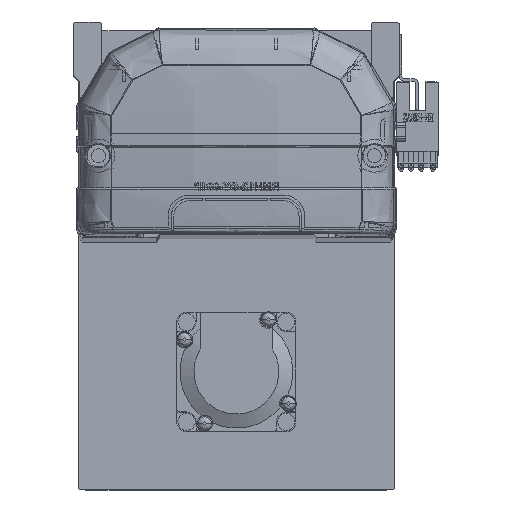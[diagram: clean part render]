
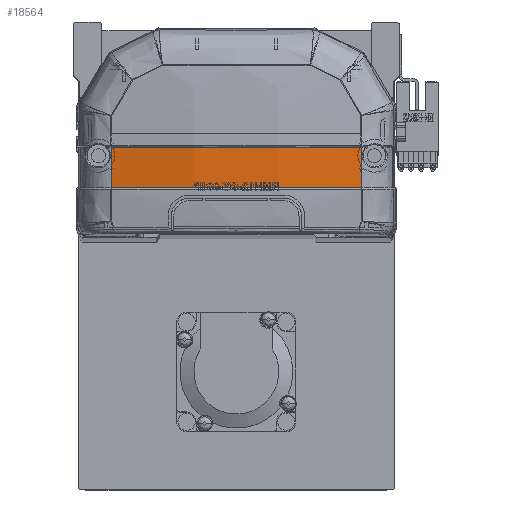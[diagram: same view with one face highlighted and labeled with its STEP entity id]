
A CAD part, top view. The second image highlights one B-rep face of the part: STEP entity #18564.
In plain terms, the highlighted free-form (B-spline) face has degree [3, 3] with [4, 4] control points.
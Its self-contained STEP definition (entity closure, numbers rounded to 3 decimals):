
#2565 = CARTESIAN_POINT ( 'NONE',  ( -13.384, 15.83, -8.724 ) ) ;
#3143 = CARTESIAN_POINT ( 'NONE',  ( 13.38, 15.83, -8.984 ) ) ;
#3167 = VERTEX_POINT ( 'NONE', #17870 ) ;
#3229 = EDGE_LOOP ( 'NONE', ( #35062, #28733, #48398, #22841 ) ) ;
#3944 = CARTESIAN_POINT ( 'NONE',  ( -40.461, 24.47, -6.231 ) ) ;
#5026 = CARTESIAN_POINT ( 'NONE',  ( 39.963, 28.706, -6.372 ) ) ;
#5845 = CARTESIAN_POINT ( 'NONE',  ( -13.373, 28.707, -9.468 ) ) ;
#6279 = B_SPLINE_CURVE_WITH_KNOTS ( 'NONE', 3,
 ( #10714, #55806, #38771, #56366 ),
 .UNSPECIFIED., .F., .F.,
 ( 4, 4 ),
 ( 0., 1. ),
 .UNSPECIFIED. ) ;
#7528 = CARTESIAN_POINT ( 'NONE',  ( 26.761, 15.83, -7.945 ) ) ;
#8904 = CARTESIAN_POINT ( 'NONE',  ( -13.598, 24.342, -10.47 ) ) ;
#9825 = CARTESIAN_POINT ( 'NONE',  ( 13.375, 28.707, -9.468 ) ) ;
#10714 = CARTESIAN_POINT ( 'NONE',  ( -39.963, 28.706, -6.372 ) ) ;
#12488 = CARTESIAN_POINT ( 'NONE',  ( 39.985, 15.83, -5.879 ) ) ;
#12703 = CARTESIAN_POINT ( 'NONE',  ( 40.461, 15.757, -5.8 ) ) ;
#13887 = CARTESIAN_POINT ( 'NONE',  ( -40.461, 28.832, -6.296 ) ) ;
#14612 = CARTESIAN_POINT ( 'NONE',  ( 26.749, 28.706, -8.432 ) ) ;
#15183 = EDGE_CURVE ( 'NONE', #26438, #3167, #6279, .T. ) ;
#15353 = VERTEX_POINT ( 'NONE', #5026 ) ;
#15959 = CARTESIAN_POINT ( 'NONE',  ( 39.973, 20.12, -6.142 ) ) ;
#16677 = CARTESIAN_POINT ( 'NONE',  ( -23.389, 15.83, -7.947 ) ) ;
#16857 = CARTESIAN_POINT ( 'NONE',  ( -39.985, 15.83, -5.879 ) ) ;
#17468 = CARTESIAN_POINT ( 'NONE',  ( 13.598, 19.918, -10.302 ) ) ;
#17870 = CARTESIAN_POINT ( 'NONE',  ( -39.985, 15.83, -5.879 ) ) ;
#18564 = ADVANCED_FACE ( 'NONE', ( #38279 ), #57569, .F. ) ;
#20272 = VERTEX_POINT ( 'NONE', #23246 ) ;
#22024 = CARTESIAN_POINT ( 'NONE',  ( -13.598, 28.769, -10.535 ) ) ;
#22249 = B_SPLINE_CURVE_WITH_KNOTS ( 'NONE', 3,
 ( #24633, #15959, #42848, #38473 ),
 .UNSPECIFIED., .F., .F.,
 ( 4, 4 ),
 ( 0., 1. ),
 .UNSPECIFIED. ) ;
#22412 = CARTESIAN_POINT ( 'NONE',  ( 40.461, 20.111, -6.066 ) ) ;
#22841 = ORIENTED_EDGE ( 'NONE', *, *, #49561, .F. ) ;
#23246 = CARTESIAN_POINT ( 'NONE',  ( 39.985, 15.83, -5.879 ) ) ;
#23508 = CARTESIAN_POINT ( 'NONE',  ( -39.963, 28.706, -6.372 ) ) ;
#24633 = CARTESIAN_POINT ( 'NONE',  ( 39.985, 15.83, -5.879 ) ) ;
#26438 = VERTEX_POINT ( 'NONE', #42623 ) ;
#28206 = CARTESIAN_POINT ( 'NONE',  ( 39.963, 28.706, -6.372 ) ) ;
#28733 = ORIENTED_EDGE ( 'NONE', *, *, #35662, .F. ) ;
#29875 = CARTESIAN_POINT ( 'NONE',  ( -33.365, 15.83, -6.848 ) ) ;
#35062 = ORIENTED_EDGE ( 'NONE', *, *, #45981, .T. ) ;
#35662 = EDGE_CURVE ( 'NONE', #26438, #15353, #44836, .T. ) ;
#35820 = CARTESIAN_POINT ( 'NONE',  ( 13.598, 24.342, -10.47 ) ) ;
#36251 = B_SPLINE_CURVE_WITH_KNOTS ( 'NONE', 3,
 ( #12488, #7528, #3143, #39181, #2565, #16677, #38797, #29875, #43952, #16857 ),
 .UNSPECIFIED., .F., .F.,
 ( 4, 2, 2, 2, 4 ),
 ( 0., 0.04, 0.06, 0.07, 0.08 ),
 .UNSPECIFIED. ) ;
#38279 = FACE_OUTER_BOUND ( 'NONE', #3229, .T. ) ;
#38473 = CARTESIAN_POINT ( 'NONE',  ( 39.963, 28.706, -6.372 ) ) ;
#38771 = CARTESIAN_POINT ( 'NONE',  ( -39.973, 20.118, -6.142 ) ) ;
#38797 = CARTESIAN_POINT ( 'NONE',  ( -26.721, 15.83, -7.624 ) ) ;
#39181 = CARTESIAN_POINT ( 'NONE',  ( -6.692, 15.83, -8.984 ) ) ;
#39998 = CARTESIAN_POINT ( 'NONE',  ( 13.598, 28.769, -10.535 ) ) ;
#42623 = CARTESIAN_POINT ( 'NONE',  ( -39.963, 28.706, -6.372 ) ) ;
#42848 = CARTESIAN_POINT ( 'NONE',  ( 39.966, 24.413, -6.306 ) ) ;
#43952 = CARTESIAN_POINT ( 'NONE',  ( -36.679, 15.83, -6.395 ) ) ;
#44738 = CARTESIAN_POINT ( 'NONE',  ( 13.598, 15.499, -10.032 ) ) ;
#44836 = B_SPLINE_CURVE_WITH_KNOTS ( 'NONE', 3,
 ( #23508, #55320, #5845, #9825, #14612, #28206 ),
 .UNSPECIFIED., .F., .F.,
 ( 4, 2, 4 ),
 ( 0., 0.5, 1. ),
 .UNSPECIFIED. ) ;
#45981 = EDGE_CURVE ( 'NONE', #20272, #15353, #22249, .T. ) ;
#48398 = ORIENTED_EDGE ( 'NONE', *, *, #15183, .T. ) ;
#48892 = CARTESIAN_POINT ( 'NONE',  ( 40.461, 24.47, -6.231 ) ) ;
#49089 = CARTESIAN_POINT ( 'NONE',  ( -13.598, 19.918, -10.302 ) ) ;
#49561 = EDGE_CURVE ( 'NONE', #20272, #3167, #36251, .T. ) ;
#53639 = CARTESIAN_POINT ( 'NONE',  ( -40.461, 15.757, -5.8 ) ) ;
#54007 = CARTESIAN_POINT ( 'NONE',  ( -13.598, 15.499, -10.032 ) ) ;
#55320 = CARTESIAN_POINT ( 'NONE',  ( -26.748, 28.706, -8.432 ) ) ;
#55806 = CARTESIAN_POINT ( 'NONE',  ( -39.966, 24.412, -6.306 ) ) ;
#56366 = CARTESIAN_POINT ( 'NONE',  ( -39.985, 15.83, -5.879 ) ) ;
#57569 =( BOUNDED_SURFACE ( )  B_SPLINE_SURFACE ( 3, 3, ( 
 ( #12703, #22412, #48892, #57970 ),
 ( #44738, #17468, #35820, #39998 ),
 ( #54007, #49089, #8904, #22024 ),
 ( #53639, #58154, #3944, #13887 ) ),
 .UNSPECIFIED., .F., .F., .F. ) 
 B_SPLINE_SURFACE_WITH_KNOTS ( ( 4, 4 ),
 ( 4, 4 ),
 ( 0., 1. ),
 ( 0., 1. ),
 .UNSPECIFIED. ) 
 GEOMETRIC_REPRESENTATION_ITEM ( )  RATIONAL_B_SPLINE_SURFACE ( (
 ( 1., 1., 1., 1.),
 ( 0.992, 0.992, 0.992, 0.992),
 ( 0.992, 0.992, 0.992, 0.992),
 ( 1., 1., 1., 1.) ) ) 
 REPRESENTATION_ITEM ( '' )  SURFACE ( )  );
#57970 = CARTESIAN_POINT ( 'NONE',  ( 40.461, 28.832, -6.296 ) ) ;
#58154 = CARTESIAN_POINT ( 'NONE',  ( -40.461, 20.111, -6.066 ) ) ;
